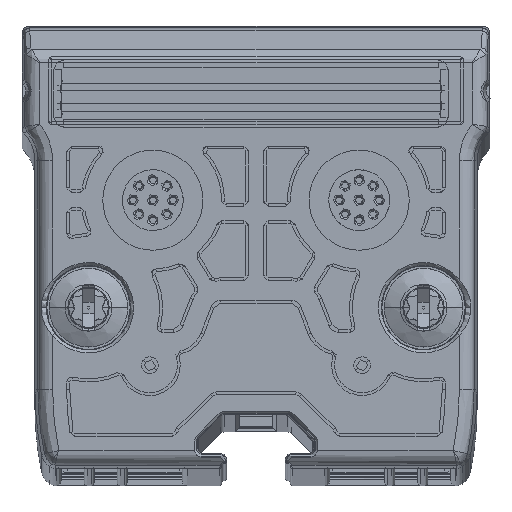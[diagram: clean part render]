
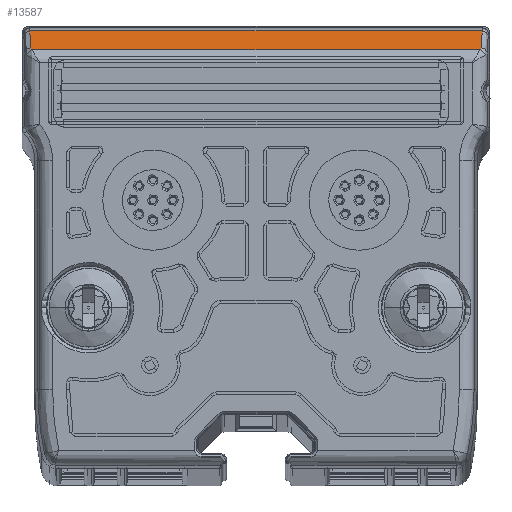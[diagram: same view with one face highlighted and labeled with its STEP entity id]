
A CAD part, top view. The second image highlights one B-rep face of the part: STEP entity #13587.
In plain terms, the highlighted planar face has unit normal (0, 0.891, 0.454).
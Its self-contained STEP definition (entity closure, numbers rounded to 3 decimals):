
#5369 = EDGE_CURVE ( 'NONE', #62294, #125566, #196703, .T. ) ;
#13587 = ADVANCED_FACE ( 'NONE', ( #200778 ), #133440, .F. ) ;
#14418 = CARTESIAN_POINT ( 'NONE',  ( 22.907, 20.243, 260.084 ) ) ;
#17622 = EDGE_CURVE ( 'NONE', #34948, #189994, #76655, .T. ) ;
#30244 = AXIS2_PLACEMENT_3D ( 'NONE', #88769, #87214, #155791 ) ;
#30839 = LINE ( 'NONE', #229568, #201682 ) ;
#33963 = EDGE_LOOP ( 'NONE', ( #219465, #125680, #108694, #240502, #108647, #82052 ) ) ;
#34417 = CARTESIAN_POINT ( 'NONE',  ( -23.029, 22.024, 256.585 ) ) ;
#34948 = VERTEX_POINT ( 'NONE', #127742 ) ;
#35285 = EDGE_CURVE ( 'NONE', #189994, #62294, #30839, .T. ) ;
#49688 = CARTESIAN_POINT ( 'NONE',  ( 23.029, 22.024, 256.585 ) ) ;
#59272 = CARTESIAN_POINT ( 'NONE',  ( -22.814, 20.117, 260.331 ) ) ;
#59805 = DIRECTION ( 'NONE',  ( 1., 0., 0. ) ) ;
#62294 = VERTEX_POINT ( 'NONE', #34417 ) ;
#67144 = CARTESIAN_POINT ( 'NONE',  ( 22.911, 20.309, 259.954 ) ) ;
#76655 = B_SPLINE_CURVE_WITH_KNOTS ( 'NONE', 3,
 ( #59272, #236353, #237330, #104235 ),
 .UNSPECIFIED., .F., .F.,
 ( 4, 4 ),
 ( 0., 1. ),
 .UNSPECIFIED. ) ;
#79070 = VERTEX_POINT ( 'NONE', #67144 ) ;
#82052 = ORIENTED_EDGE ( 'NONE', *, *, #241866, .F. ) ;
#87214 = DIRECTION ( 'NONE',  ( 0., -0.891, -0.454 ) ) ;
#88769 = CARTESIAN_POINT ( 'NONE',  ( 11.908, 21.1, 258.4 ) ) ;
#96444 = DIRECTION ( 'NONE',  ( -0.031, 0.453, -0.891 ) ) ;
#104235 = CARTESIAN_POINT ( 'NONE',  ( -22.911, 20.309, 259.954 ) ) ;
#104248 = CARTESIAN_POINT ( 'NONE',  ( 22.874, 20.177, 260.213 ) ) ;
#108647 = ORIENTED_EDGE ( 'NONE', *, *, #208395, .F. ) ;
#108694 = ORIENTED_EDGE ( 'NONE', *, *, #35285, .F. ) ;
#123289 = CARTESIAN_POINT ( 'NONE',  ( -22.911, 20.309, 259.954 ) ) ;
#125566 = VERTEX_POINT ( 'NONE', #205197 ) ;
#125680 = ORIENTED_EDGE ( 'NONE', *, *, #5369, .F. ) ;
#127742 = CARTESIAN_POINT ( 'NONE',  ( -22.814, 20.117, 260.331 ) ) ;
#130552 = EDGE_CURVE ( 'NONE', #125566, #79070, #204778, .T. ) ;
#133440 = PLANE ( 'NONE',  #30244 ) ;
#134426 = VECTOR ( 'NONE', #59805, 1000. ) ;
#155791 = DIRECTION ( 'NONE',  ( 0., 0.454, -0.891 ) ) ;
#160711 = DIRECTION ( 'NONE',  ( -0.031, -0.453, 0.891 ) ) ;
#165214 = VERTEX_POINT ( 'NONE', #201065 ) ;
#167718 = VECTOR ( 'NONE', #187429, 1000. ) ;
#183223 = B_SPLINE_CURVE_WITH_KNOTS ( 'NONE', 3,
 ( #192777, #14418, #104248, #259644 ),
 .UNSPECIFIED., .F., .F.,
 ( 4, 4 ),
 ( 0., 1. ),
 .UNSPECIFIED. ) ;
#187429 = DIRECTION ( 'NONE',  ( -1., 0., 0. ) ) ;
#189994 = VERTEX_POINT ( 'NONE', #123289 ) ;
#192777 = CARTESIAN_POINT ( 'NONE',  ( 22.911, 20.309, 259.954 ) ) ;
#193277 = CARTESIAN_POINT ( 'NONE',  ( 11.908, 22.024, 256.585 ) ) ;
#196703 = LINE ( 'NONE', #193277, #134426 ) ;
#200778 = FACE_OUTER_BOUND ( 'NONE', #33963, .T. ) ;
#201065 = CARTESIAN_POINT ( 'NONE',  ( 22.814, 20.117, 260.331 ) ) ;
#201682 = VECTOR ( 'NONE', #96444, 1000. ) ;
#204778 = LINE ( 'NONE', #49688, #249803 ) ;
#205197 = CARTESIAN_POINT ( 'NONE',  ( 23.029, 22.024, 256.585 ) ) ;
#208395 = EDGE_CURVE ( 'NONE', #165214, #34948, #233841, .T. ) ;
#219465 = ORIENTED_EDGE ( 'NONE', *, *, #130552, .F. ) ;
#229568 = CARTESIAN_POINT ( 'NONE',  ( -23.029, 22.024, 256.585 ) ) ;
#232039 = CARTESIAN_POINT ( 'NONE',  ( -85.73, 20.117, 260.331 ) ) ;
#233841 = LINE ( 'NONE', #232039, #167718 ) ;
#236353 = CARTESIAN_POINT ( 'NONE',  ( -22.874, 20.177, 260.213 ) ) ;
#237330 = CARTESIAN_POINT ( 'NONE',  ( -22.907, 20.243, 260.084 ) ) ;
#240502 = ORIENTED_EDGE ( 'NONE', *, *, #17622, .F. ) ;
#241866 = EDGE_CURVE ( 'NONE', #79070, #165214, #183223, .T. ) ;
#249803 = VECTOR ( 'NONE', #160711, 1000. ) ;
#259644 = CARTESIAN_POINT ( 'NONE',  ( 22.814, 20.117, 260.331 ) ) ;
